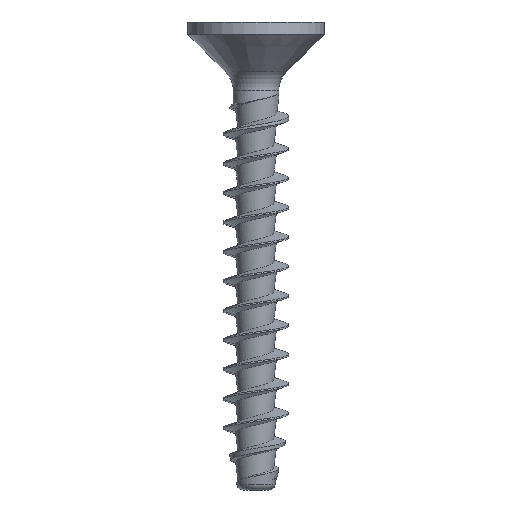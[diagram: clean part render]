
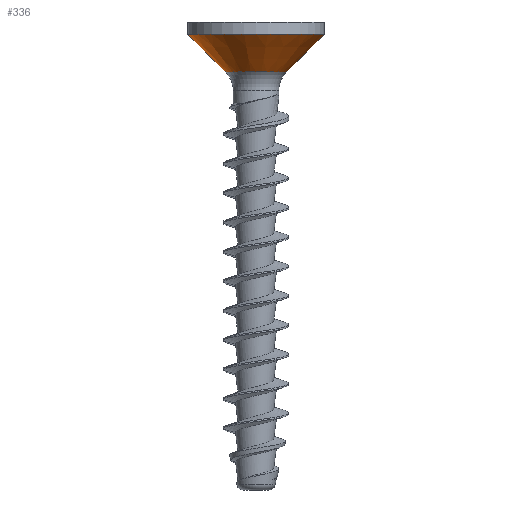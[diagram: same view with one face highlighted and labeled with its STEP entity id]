
A CAD part, front view. The second image highlights one B-rep face of the part: STEP entity #336.
In plain terms, the highlighted conical face has half-angle 45 degrees and reference radius 1.22 mm.
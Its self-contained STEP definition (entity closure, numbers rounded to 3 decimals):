
#313=FACE_BOUND('',#529,.T.);
#314=FACE_BOUND('',#530,.T.);
#323=CONICAL_SURFACE('',#1610,1.22,45.);
#336=ADVANCED_FACE('',(#313,#314),#323,.T.);
#529=EDGE_LOOP('',(#725));
#530=EDGE_LOOP('',(#726));
#629=CIRCLE('',#1608,1.63);
#630=CIRCLE('',#1609,3.65);
#725=ORIENTED_EDGE('',*,*,#1326,.T.);
#726=ORIENTED_EDGE('',*,*,#1327,.F.);
#1176=VERTEX_POINT('',#3628);
#1177=VERTEX_POINT('',#3630);
#1326=EDGE_CURVE('',#1176,#1176,#629,.T.);
#1327=EDGE_CURVE('',#1177,#1177,#630,.T.);
#1608=AXIS2_PLACEMENT_3D('',#3627,#1740,#1741);
#1609=AXIS2_PLACEMENT_3D('',#3629,#1742,#1743);
#1610=AXIS2_PLACEMENT_3D('',#3631,#1744,#1745);
#1740=DIRECTION('',(0.,0.,1.));
#1741=DIRECTION('',(1.,0.,0.));
#1742=DIRECTION('',(0.,0.,1.));
#1743=DIRECTION('',(1.,0.,0.));
#1744=DIRECTION('',(0.,0.,1.));
#1745=DIRECTION('',(1.,0.,0.));
#3627=CARTESIAN_POINT('',(0.,0.,0.41));
#3628=CARTESIAN_POINT('',(1.63,0.,0.41));
#3629=CARTESIAN_POINT('',(0.,0.,2.43));
#3630=CARTESIAN_POINT('',(3.65,0.,2.43));
#3631=CARTESIAN_POINT('',(0.,0.,0.));
